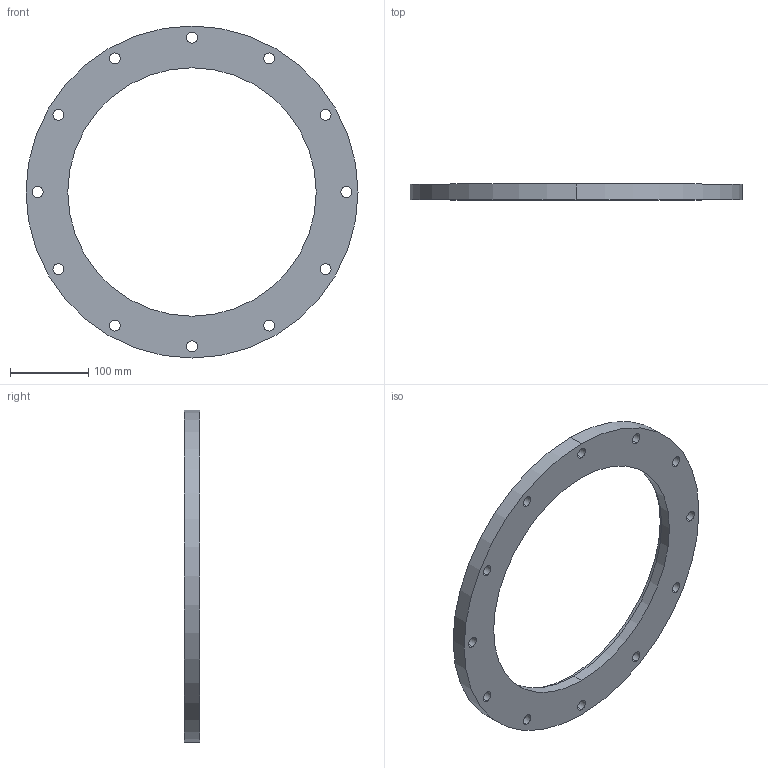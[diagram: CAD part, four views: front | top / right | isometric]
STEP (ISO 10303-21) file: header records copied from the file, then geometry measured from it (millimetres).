
FILE_DESCRIPTION (( 'STEP AP214' ), '1' );
FILE_NAME ('W5KL320.STEP', '2019-04-01T13:55:52', ( '' ), ( '' ), 'SwSTEP 2.0', 'SolidWorks 2018', '' );
FILE_SCHEMA (( 'AUTOMOTIVE_DESIGN' ));
Length unit declared in the file: millimetre
Products named in the file (1): W5KL320
Bounding box: 425 x 20 x 425 mm (x, y, z)
Volume: 1189943.8 mm3; surface area: 178461.6 mm2
Topology: 1 solids, 1 shells, 33 faces, 90 edges, 60 vertices
Faces by surface type: cylinder 30, plane 3
Entity records: 1170 total; most frequent: DIRECTION 218, CARTESIAN_POINT 184, ORIENTED_EDGE 180, AXIS2_PLACEMENT_3D 94, EDGE_CURVE 90, CIRCLE 60, VERTEX_POINT 60, EDGE_LOOP 60
